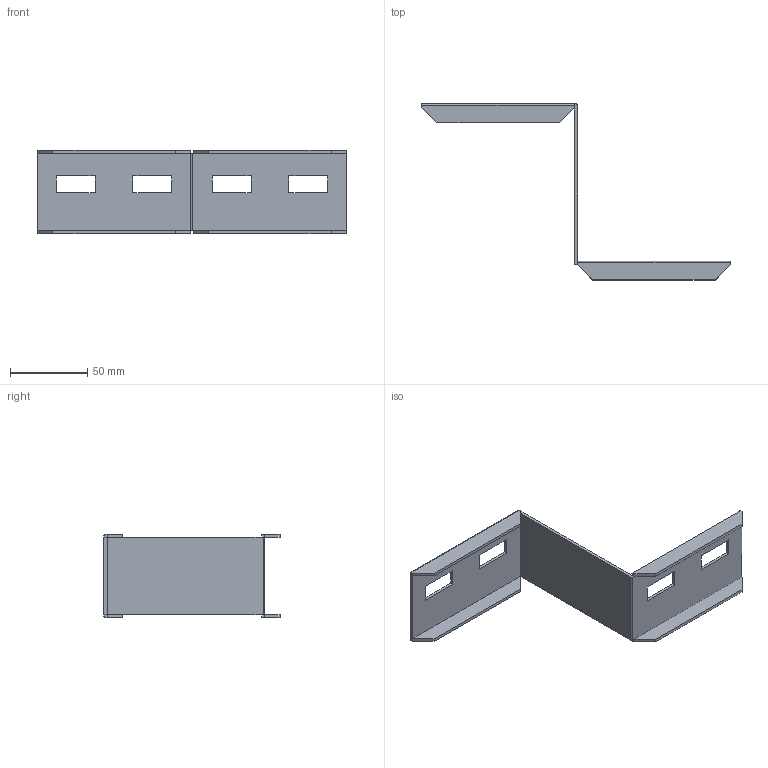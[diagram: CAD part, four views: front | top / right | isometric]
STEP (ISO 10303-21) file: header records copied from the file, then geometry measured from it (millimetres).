
FILE_DESCRIPTION(/* description */ ('','CAx-IF Rec.Pracs.---Representation and Presentation of Product Manufacturing Information (PMI)---4.0---2014-10-13'),/* implementation_level */ '2;1');
FILE_NAME(/* name */ 'Eurostrut_ELHR60-100_Left Hand Reducer for Cable Ladder ECL.step',/* time_stamp */ '2026-09-08T10:36:03+02:00',/* author */ (''),/* organization */ (''),/* preprocessor_version */ 'ST-DEVELOPER v20.1',/* originating_system */ 'Autodesk Revit 2027 27.2.0.39',/* authorisation */ '');
FILE_SCHEMA (('AP242_MANAGED_MODEL_BASED_3D_ENGINEERING_MIM_LF { 1 0 10303 442 2 1 4 }'));
Length unit declared in the file: millimetre
Products named in the file (4): TopLevelAssembly; Joined Solid Geometry; Joined Solid Geometry_1; Joined Solid Geometry_2
Assembly tree (3 placements, depth 2):
  TopLevelAssembly
    Joined Solid Geometry
    Joined Solid Geometry_1
    Joined Solid Geometry_2
Bounding box: 200 x 114 x 54 mm (x, y, z)
Volume: 36597.6 mm3; surface area: 40154.8 mm2
Topology: 5 solids, 5 shells, 64 faces, 162 edges, 108 vertices
Faces by surface type: plane 58, cylinder 6
Entity records: 1984 total; most frequent: CARTESIAN_POINT 341, ORIENTED_EDGE 324, DIRECTION 316, EDGE_CURVE 162, LINE 150, VECTOR 150, VERTEX_POINT 108, AXIS2_PLACEMENT_3D 83
